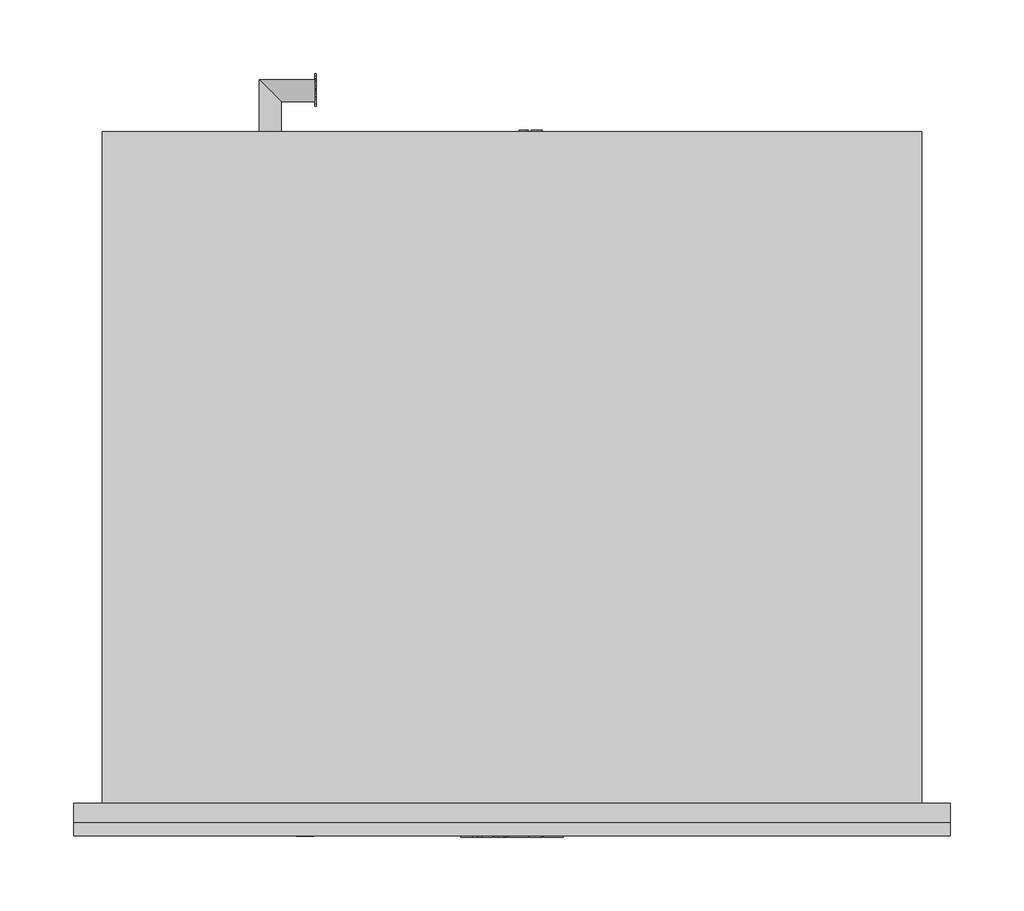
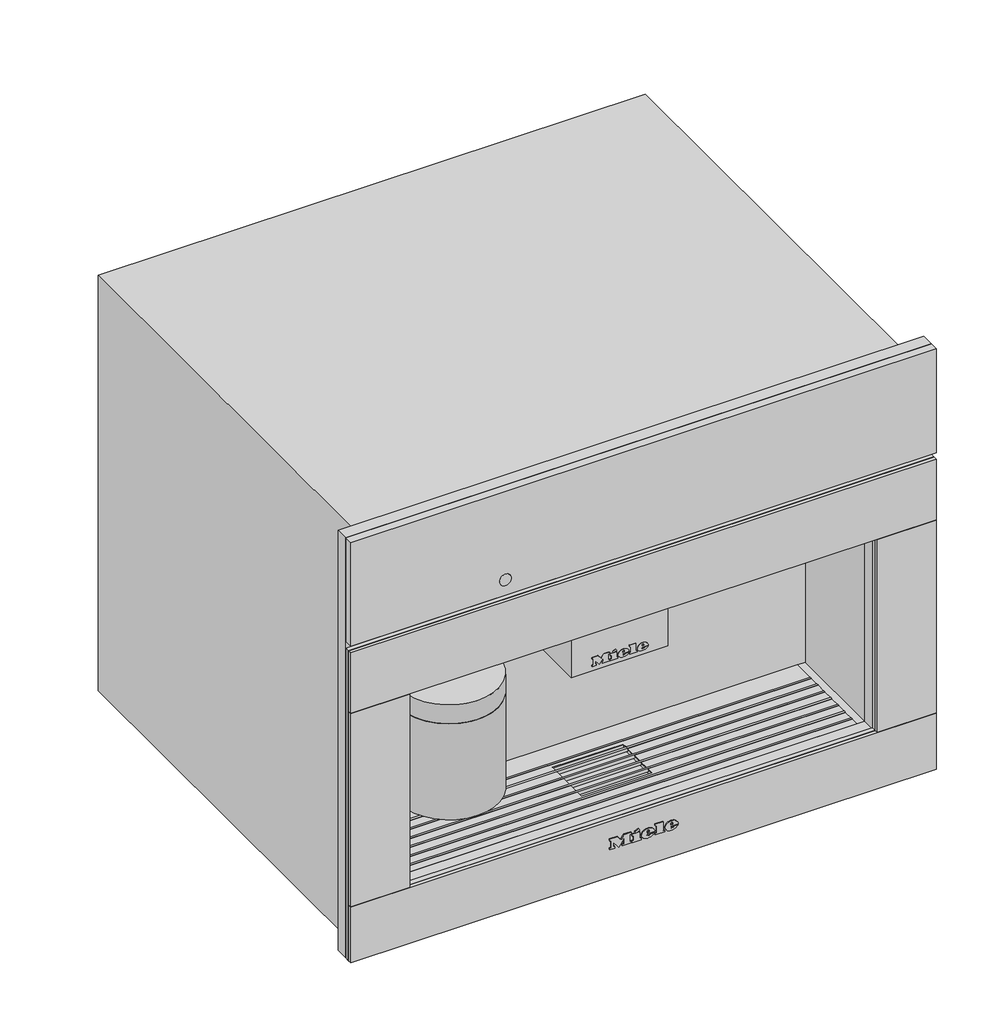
# Not in any storey: 1 proxy.
"""IFC4 building model written with IfcOpenShell, lengths in millimetres."""

from ifc_helpers import new_model, si_unit, origin, place, context, project, spatial, transform, mapped, element, save
from components import specialty_equipment_7b8f3ad3

model = new_model("IFC4")

# Units and contexts
model_context = context("Model", 3, world=origin())
ifc_project = project(units=[si_unit("LENGTHUNIT", "METRE", prefix="MILLI")], contexts=[model_context])

# Site, building
site = spatial("IfcSite", under=ifc_project)
building = spatial("IfcBuilding", under=site)

# Proxy
placement = place(None, origin())
specialty_equipment_shape = specialty_equipment_7b8f3ad3(model_context)
element("IfcBuildingElementProxy", 1, Name="12384610_CH_CVA7845_OBSWMATT : 29784521_CH_12384610_CVA7845_OBSWMATT", ObjectType="12384610_CH_CVA7845_OBSWMATT : 29784521_CH_12384610_CVA7845_OBSWMATT", at=placement, inside=building, context=model_context, shape_type="MappedRepresentation", body=[
    mapped(specialty_equipment_shape, transform((0.0, 0.0, 0.0), x_axis=(1.0, 0.0, 0.0), y_axis=(0.0, 1.0, 0.0), z_axis=(0.0, 0.0, 1.0))),
])

save(model, "model.ifc")
